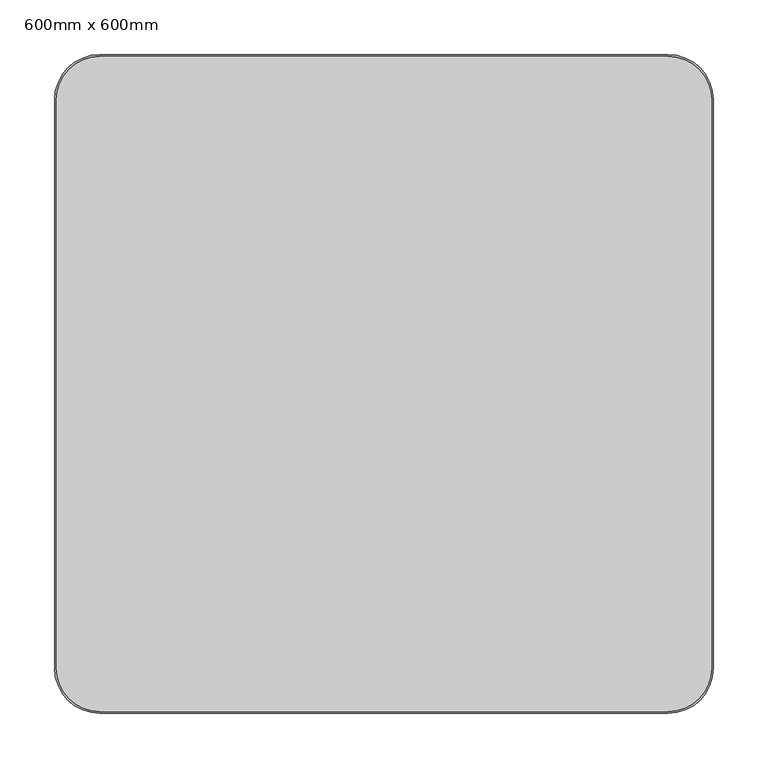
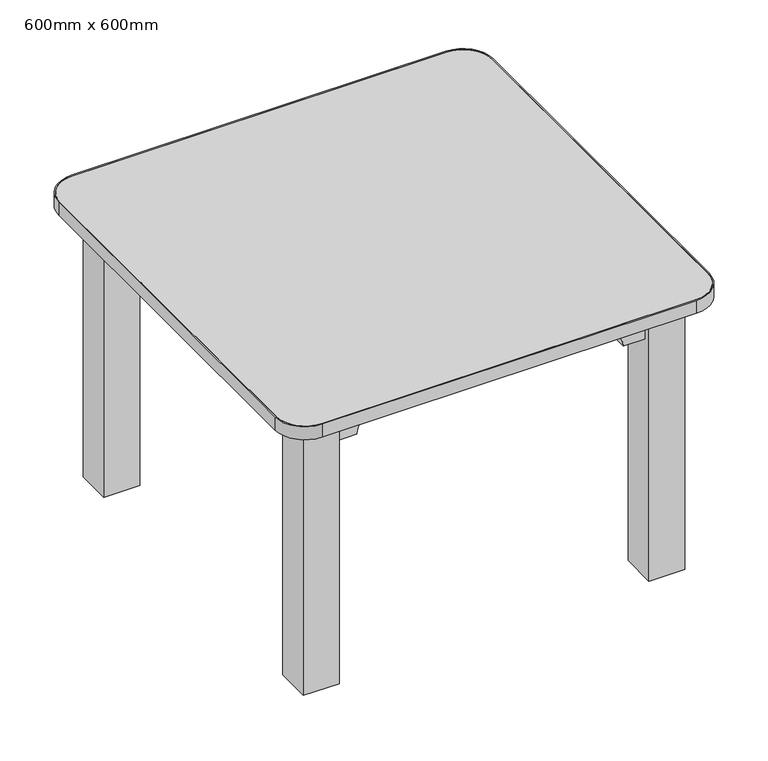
"""IFC4 building model written with IfcOpenShell, lengths in millimetres: furniture geometry, Table rectangulaire - Petit : 600mm x 600mm."""

import ifcopenshell
import ifcopenshell.guid

model = None  # the IFC model being written
_history = None  # IfcOwnerHistory: only IFC2X3 demands one
_inside = {}  # id of a spatial element -> (the spatial element, [elements in it])
_under = {}  # id of a project, library or spatial element -> (it, [spatial elements below it])
_declared = {}  # id of a project -> (the project, [libraries it declares])
_typed = {}  # id of a type object -> (the type object, [elements of that type])
_made_of = {}  # id of a material, layer set ... -> (it, [elements and type objects made of it])


def new_model(schema):
    """Start an empty IFC model of exactly this schema.

    Asked for "IFC4X3", IfcOpenShell would pick the latest addendum, in which some entities
    have other attributes; the version numbers below select the first issue.
    IFC2X3 requires an IfcOwnerHistory on every rooted entity: one is made here for all.
    """
    global model, _history
    if schema == "IFC4X3":
        model = ifcopenshell.file(schema_version=(4, 3, 0, 0))
    else:
        model = ifcopenshell.file(schema=schema)
    _inside.clear()
    _under.clear()
    _declared.clear()
    _typed.clear()
    _made_of.clear()
    _history = None
    if model.schema == "IFC2X3":
        org = make("IfcOrganization", Name="unknown")
        user = make(
            "IfcPersonAndOrganization",
            ThePerson=make("IfcPerson", FamilyName="unknown"),
            TheOrganization=org,
        )
        app = make(
            "IfcApplication",
            ApplicationDeveloper=org,
            Version="unknown",
            ApplicationFullName="unknown",
            ApplicationIdentifier="unknown",
        )
        _history = make(
            "IfcOwnerHistory",
            OwningUser=user,
            OwningApplication=app,
            ChangeAction="ADDED",
            CreationDate=0,
        )
    return model


def make(cls, **values):
    """One entity of the class cls with the attributes given. An attribute that is None is left unset."""
    return model.create_entity(
        cls, **{name: value for name, value in values.items() if value is not None}
    )


def rooted(cls, **values):
    """An entity with a GlobalId (a new one), such as an element, a storey or a relation."""
    return make(cls, GlobalId=ifcopenshell.guid.new(), OwnerHistory=_history, **values)


def si_unit(unit_type, name, prefix=None):
    """IfcSIUnit, for example si_unit("LENGTHUNIT", "METRE", prefix="MILLI")."""
    return make("IfcSIUnit", UnitType=unit_type, Prefix=prefix, Name=name)


def assignment(units):
    """IfcUnitAssignment: the units of a project."""
    return None if units is None else make("IfcUnitAssignment", Units=units)


def point(xyz):
    """IfcCartesianPoint."""
    return None if xyz is None else make("IfcCartesianPoint", Coordinates=xyz)


def direction(xyz):
    """IfcDirection."""
    return None if xyz is None else make("IfcDirection", DirectionRatios=xyz)


def frame(location, z_axis=None, x_axis=None):
    """IfcAxis2Placement3D, a coordinate frame: its origin and axes. An axis left out is left unset."""
    return make(
        "IfcAxis2Placement3D",
        Location=point(location),
        Axis=direction(z_axis),
        RefDirection=direction(x_axis),
    )


def frame_2d(location, x_axis=None):
    """IfcAxis2Placement2D, a coordinate frame in the plane: its origin and x axis."""
    return make(
        "IfcAxis2Placement2D", Location=point(location), RefDirection=direction(x_axis)
    )


def origin():
    """The frame at (0, 0, 0) with its axes left unset."""
    return frame((0.0, 0.0, 0.0))


def origin_with_axes():
    """The frame at (0, 0, 0) with the z axis (0, 0, 1) and the x axis (1, 0, 0) written out."""
    return frame((0.0, 0.0, 0.0), z_axis=(0.0, 0.0, 1.0), x_axis=(1.0, 0.0, 0.0))


def place(relative_to, where):
    """IfcLocalPlacement: puts the frame where relative to a parent placement (None: the world)."""
    return make(
        "IfcLocalPlacement", PlacementRelTo=relative_to, RelativePlacement=where
    )


def context(
    kind, dimensions, precision=None, world=None, true_north=None, identifier=None
):
    """IfcGeometricRepresentationContext, for example the 3D "Model" context."""
    return make(
        "IfcGeometricRepresentationContext",
        ContextIdentifier=identifier,
        ContextType=kind,
        CoordinateSpaceDimension=dimensions,
        Precision=precision,
        WorldCoordinateSystem=world,
        TrueNorth=true_north,
    )


def project(units=None, contexts=None):
    """IfcProject with its units and contexts."""
    return rooted(
        "IfcProject",
        Name="project",
        RepresentationContexts=contexts,
        UnitsInContext=assignment(units),
    )


def spatial(cls, under=None, at=None, **own):
    """A site, building, storey or space (cls), placed at a placement, below another one or the project."""
    s = rooted(cls, ObjectPlacement=at, **own)
    if under is not None:
        _under.setdefault(under.id(), (under, []))[1].append(s)
    return s


def polyline(points):
    """IfcPolyline through the points."""
    return make("IfcPolyline", Points=[point(p) for p in points])


def circle_curve(where, radius):
    """IfcCircle in the frame where."""
    return make("IfcCircle", Position=where, Radius=radius)


def trimmed(basis, trim1, trim2, sense, master):
    """IfcTrimmedCurve: the piece of a basis curve between two trims."""
    return make(
        "IfcTrimmedCurve",
        BasisCurve=basis,
        Trim1=trim1,
        Trim2=trim2,
        SenseAgreement=sense,
        MasterRepresentation=master,
    )


def segment(curve, same_sense, transition):
    """IfcCompositeCurveSegment."""
    return make(
        "IfcCompositeCurveSegment",
        Transition=transition,
        SameSense=same_sense,
        ParentCurve=curve,
    )


def composite_curve(segments, self_intersect=None):
    """IfcCompositeCurve: segments joined end to end."""
    return make("IfcCompositeCurve", Segments=segments, SelfIntersect=self_intersect)


def outline(outer, holes=None, kind="AREA"):
    """IfcArbitraryClosedProfileDef: a profile drawn as a closed curve; with holes, ...WithVoids."""
    if holes is None:
        return make("IfcArbitraryClosedProfileDef", ProfileType=kind, OuterCurve=outer)
    return make(
        "IfcArbitraryProfileDefWithVoids",
        ProfileType=kind,
        OuterCurve=outer,
        InnerCurves=holes,
    )


def extrude(swept, where, along, depth):
    """IfcExtrudedAreaSolid: the profile swept, set in the frame where, extruded along a direction by depth."""
    return make(
        "IfcExtrudedAreaSolid",
        SweptArea=swept,
        Position=where,
        ExtrudedDirection=direction(along),
        Depth=depth,
    )


def shape(context_of_items, identifier, shape_type, items):
    """IfcShapeRepresentation: the items that make up one representation, for example the "Body"."""
    return make(
        "IfcShapeRepresentation",
        ContextOfItems=context_of_items,
        RepresentationIdentifier=identifier,
        RepresentationType=shape_type,
        Items=items,
    )


def source(mapping_origin, context_of_items, identifier, shape_type, items):
    """IfcRepresentationMap: a shape defined once, which mapped items show again and again."""
    return make(
        "IfcRepresentationMap",
        MappingOrigin=mapping_origin,
        MappedRepresentation=shape(context_of_items, identifier, shape_type, items),
    )


def transform(
    local_origin,
    x_axis=None,
    y_axis=None,
    z_axis=None,
    scale=None,
    scale2=None,
    scale3=None,
    uniform=True,
):
    """IfcCartesianTransformationOperator3D, or its non-uniform kind. x_axis, y_axis, z_axis: its Axis1, 2, 3."""
    if uniform:
        return make(
            "IfcCartesianTransformationOperator3D",
            Axis1=direction(x_axis),
            Axis2=direction(y_axis),
            LocalOrigin=point(local_origin),
            Scale=scale,
            Axis3=direction(z_axis),
        )
    return make(
        "IfcCartesianTransformationOperator3DnonUniform",
        Axis1=direction(x_axis),
        Axis2=direction(y_axis),
        LocalOrigin=point(local_origin),
        Scale=scale,
        Axis3=direction(z_axis),
        Scale2=scale2,
        Scale3=scale3,
    )


def mapped(mapping_source, mapping_target):
    """IfcMappedItem: shows the shape of a source again, moved by a transform."""
    return make(
        "IfcMappedItem", MappingSource=mapping_source, MappingTarget=mapping_target
    )


def made_of(thing, what):
    """Note that an element or type object is made of a material, layer set ...; save() writes the relation."""
    if what is not None:
        _made_of.setdefault(what.id(), (what, []))[1].append(thing)
    return thing


def element(
    cls,
    number,
    at=None,
    inside=None,
    cuts=None,
    type_object=None,
    material=None,
    context=None,
    identifier="Body",
    shape_type=None,
    held_by="IfcProductDefinitionShape",
    body=None,
    shapes=None,
    **own,
):
    """One element of the class cls, such as IfcWall. Its Tag is "e" and its number.

    at: its placement. inside: the storey or other place that contains it. cuts: it is an
    opening in that element (IfcRelVoidsElement). A single representation is given by context,
    identifier, shape_type and body (its items); several are given by shapes. held_by: the class
    of the entity that holds the representations. save() writes the other relations.
    """
    e = rooted(cls, Tag="e%d" % number, ObjectPlacement=at, **own)
    if body is not None:
        shapes = [shape(context, identifier, shape_type, body)]
    if shapes is not None:
        e.Representation = make(held_by, Representations=shapes)
    if inside is not None:
        _inside.setdefault(inside.id(), (inside, []))[1].append(e)
    if cuts is not None:
        rooted(
            "IfcRelVoidsElement", RelatingBuildingElement=cuts, RelatedOpeningElement=e
        )
    if type_object is not None:
        _typed.setdefault(type_object.id(), (type_object, []))[1].append(e)
    return made_of(e, material)


def aggregate(whole, parts):
    """IfcRelAggregates: a whole, such as a stair, and the parts it consists of."""
    return rooted("IfcRelAggregates", RelatingObject=whole, RelatedObjects=parts)


def save(model, path):
    """Write the relations noted so far, then the file.

    IfcRelAggregates (storeys below a building ...), IfcRelContainedInSpatialStructure (elements
    in a storey), IfcRelDefinesByType, IfcRelAssociatesMaterial and IfcRelDeclares: one each for
    every whole, place, type object, material and project.
    """
    for whole, parts in _under.values():
        aggregate(whole, parts)
    for where, things in _inside.values():
        rooted(
            "IfcRelContainedInSpatialStructure",
            RelatedElements=things,
            RelatingStructure=where,
        )
    for kind, things in _typed.values():
        rooted("IfcRelDefinesByType", RelatedObjects=things, RelatingType=kind)
    for what, things in _made_of.values():
        rooted("IfcRelAssociatesMaterial", RelatedObjects=things, RelatingMaterial=what)
    for by, libraries in _declared.values():
        rooted("IfcRelDeclares", RelatingContext=by, RelatedDefinitions=libraries)
    model.write(path)


def furniture_600mm_x_600mm_a769e95e(model_context):
    return source(origin(), model_context, "Body", "SweptSolid", [
        extrude(outline(composite_curve([segment(polyline([(289.1058232, -331.5), (-230.8941768, -331.5)]), True, "CONTINUOUS"), segment(trimmed(circle_curve(frame_2d((-230.8941768, -290.0)), 41.5), [point((-230.8941768, -331.5))], [point((-272.3941768, -290.0))], False, "CARTESIAN"), True, "CONTINUOUS"), segment(polyline([(-272.3941768, -290.0), (-272.3941768, 230.0)]), True, "CONTINUOUS"), segment(trimmed(circle_curve(frame_2d((-230.8941768, 230.0)), 41.5), [point((-272.3941768, 230.0))], [point((-230.8941768, 271.5))], False, "CARTESIAN"), True, "CONTINUOUS"), segment(polyline([(-230.8941768, 271.5), (289.1058232, 271.5)]), True, "CONTINUOUS"), segment(trimmed(circle_curve(frame_2d((289.1058232, 230.0)), 41.5), [point((289.1058232, 271.5))], [point((330.6058232, 230.0))], False, "CARTESIAN"), True, "CONTINUOUS"), segment(polyline([(330.6058232, 230.0), (330.6058232, -290.0)]), True, "CONTINUOUS"), segment(trimmed(circle_curve(frame_2d((289.1058232, -290.0)), 41.5), [point((330.6058232, -290.0))], [point((289.1058232, -331.5))], False, "CARTESIAN"), True, "CONTINUOUS")], self_intersect=False), holes=[composite_curve([segment(polyline([(-270.8941768, 230.0), (-270.8941768, -290.0)]), True, "CONTINUOUS"), segment(trimmed(circle_curve(frame_2d((-230.8941768, -290.0)), 40.0), [point((-270.8941768, -290.0))], [point((-230.8941768, -330.0))], True, "CARTESIAN"), True, "CONTINUOUS"), segment(polyline([(-230.8941768, -330.0), (289.1058232, -330.0)]), True, "CONTINUOUS"), segment(trimmed(circle_curve(frame_2d((289.1058232, -290.0)), 40.0), [point((289.1058232, -330.0))], [point((329.1058232, -290.0))], True, "CARTESIAN"), True, "CONTINUOUS"), segment(polyline([(329.1058232, -290.0), (329.1058232, 230.0)]), True, "CONTINUOUS"), segment(trimmed(circle_curve(frame_2d((289.1058232, 230.0)), 40.0), [point((329.1058232, 230.0))], [point((289.1058232, 270.0))], True, "CARTESIAN"), True, "CONTINUOUS"), segment(polyline([(289.1058232, 270.0), (-230.8941768, 270.0)]), True, "CONTINUOUS"), segment(trimmed(circle_curve(frame_2d((-230.8941768, 230.0)), 40.0), [point((-230.8941768, 270.0))], [point((-270.8941768, 230.0))], True, "CARTESIAN"), True, "CONTINUOUS")], self_intersect=False)]), frame((0.0, 0.0, 400.0), z_axis=(0.0, 0.0, 1.0), x_axis=(1.0, 0.0, 0.0)), (0.0, 0.0, 1.0), 19.0),
        extrude(outline(composite_curve([segment(polyline([(400.0, -185.8941768), (350.0, -185.8941768), (350.0, -155.8941768)]), True, "CONTINUOUS"), segment(trimmed(circle_curve(frame_2d((350.0, -130.8941768)), 25.0), [point((350.0, -155.8941768))], [point((375.0, -130.8941768))], True, "CARTESIAN"), True, "CONTINUOUS"), segment(polyline([(375.0, -130.8941768), (375.0, 189.1058232)]), True, "CONTINUOUS"), segment(trimmed(circle_curve(frame_2d((350.0, 189.1058232)), 25.0), [point((375.0, 189.1058232))], [point((350.0, 214.1058232))], True, "CARTESIAN"), True, "CONTINUOUS"), segment(polyline([(350.0, 214.1058232), (350.0, 244.1058232), (400.0, 244.1058232), (400.0, -185.8941768)]), True, "CONTINUOUS")], self_intersect=False)), frame((0.0, 195.0, 0.0), z_axis=(0.0, 1.0, 0.0), x_axis=(0.0, 0.0, 1.0)), (0.0, 0.0, 1.0), 30.0),
        extrude(outline(composite_curve([segment(polyline([(400.0, 244.1058232), (400.0, -185.8941768), (350.0, -185.8941768), (350.0, -155.8941768)]), True, "CONTINUOUS"), segment(trimmed(circle_curve(frame_2d((350.0, -130.8941768)), 25.0), [point((350.0, -155.8941768))], [point((375.0, -130.8941768))], True, "CARTESIAN"), True, "CONTINUOUS"), segment(polyline([(375.0, -130.8941768), (375.0, 189.1058232)]), True, "CONTINUOUS"), segment(trimmed(circle_curve(frame_2d((350.0, 189.1058232)), 25.0), [point((375.0, 189.1058232))], [point((350.0, 214.1058232))], True, "CARTESIAN"), True, "CONTINUOUS"), segment(polyline([(350.0, 214.1058232), (350.0, 244.1058232), (400.0, 244.1058232)]), True, "CONTINUOUS")], self_intersect=False)), frame((0.0, -285.0, 0.0), z_axis=(0.0, 1.0, 0.0), x_axis=(0.0, 0.0, 1.0)), (0.0, 0.0, 1.0), 30.0),
        extrude(outline(composite_curve([segment(polyline([(-245.0, 400.0), (185.0, 400.0), (185.0, 350.0), (155.0, 350.0)]), True, "CONTINUOUS"), segment(trimmed(circle_curve(frame_2d((130.0, 350.0)), 25.0), [point((155.0, 350.0))], [point((130.0, 375.0))], True, "CARTESIAN"), True, "CONTINUOUS"), segment(polyline([(130.0, 375.0), (-190.0, 375.0)]), True, "CONTINUOUS"), segment(trimmed(circle_curve(frame_2d((-190.0, 350.0)), 25.0), [point((-190.0, 375.0))], [point((-215.0, 350.0))], True, "CARTESIAN"), True, "CONTINUOUS"), segment(polyline([(-215.0, 350.0), (-245.0, 350.0), (-245.0, 400.0)]), True, "CONTINUOUS")], self_intersect=False)), frame((-225.8941768, 0.0, 0.0), z_axis=(1.0, 0.0, 0.0), x_axis=(0.0, 1.0, 0.0)), (0.0, 0.0, 1.0), 30.0),
        extrude(outline(composite_curve([segment(polyline([(-215.0, 350.0), (-245.0, 350.0), (-245.0, 400.0), (185.0, 400.0), (185.0, 350.0), (155.0, 350.0)]), True, "CONTINUOUS"), segment(trimmed(circle_curve(frame_2d((130.0, 350.0)), 25.0), [point((155.0, 350.0))], [point((130.0, 375.0))], True, "CARTESIAN"), True, "CONTINUOUS"), segment(polyline([(130.0, 375.0), (-190.0, 375.0)]), True, "CONTINUOUS"), segment(trimmed(circle_curve(frame_2d((-190.0, 350.0)), 25.0), [point((-190.0, 375.0))], [point((-215.0, 350.0))], True, "CARTESIAN"), True, "CONTINUOUS")], self_intersect=False)), frame((254.1058232, 0.0, 0.0), z_axis=(1.0, 0.0, 0.0), x_axis=(0.0, 1.0, 0.0)), (0.0, 0.0, 1.0), 30.0),
        extrude(outline(polyline([(-185.8941768, -295.0), (-235.8941768, -295.0), (-235.8941768, -245.0), (-185.8941768, -245.0), (-185.8941768, -295.0)])), origin_with_axes(), (0.0, 0.0, 1.0), 400.0),
        extrude(outline(polyline([(-185.8941768, 185.0), (-235.8941768, 185.0), (-235.8941768, 235.0), (-185.8941768, 235.0), (-185.8941768, 185.0)])), origin_with_axes(), (0.0, 0.0, 1.0), 400.0),
        extrude(outline(polyline([(294.1058232, 185.0), (244.1058232, 185.0), (244.1058232, 235.0), (294.1058232, 235.0), (294.1058232, 185.0)])), origin_with_axes(), (0.0, 0.0, 1.0), 400.0),
        extrude(outline(polyline([(294.1058232, -295.0), (244.1058232, -295.0), (244.1058232, -245.0), (294.1058232, -245.0), (294.1058232, -295.0)])), origin_with_axes(), (0.0, 0.0, 1.0), 400.0),
        extrude(outline(composite_curve([segment(trimmed(circle_curve(frame_2d((289.1058232, 230.0)), 40.0), [point((289.1058232, 270.0))], [point((329.1058232, 230.0))], False, "CARTESIAN"), True, "CONTINUOUS"), segment(polyline([(329.1058232, 230.0), (329.1058232, -290.0)]), True, "CONTINUOUS"), segment(trimmed(circle_curve(frame_2d((289.1058232, -290.0)), 40.0), [point((329.1058232, -290.0))], [point((289.1058232, -330.0))], False, "CARTESIAN"), True, "CONTINUOUS"), segment(polyline([(289.1058232, -330.0), (-230.8941768, -330.0)]), True, "CONTINUOUS"), segment(trimmed(circle_curve(frame_2d((-230.8941768, -290.0)), 40.0), [point((-230.8941768, -330.0))], [point((-270.8941768, -290.0))], False, "CARTESIAN"), True, "CONTINUOUS"), segment(polyline([(-270.8941768, -290.0), (-270.8941768, 230.0)]), True, "CONTINUOUS"), segment(trimmed(circle_curve(frame_2d((-230.8941768, 230.0)), 40.0), [point((-270.8941768, 230.0))], [point((-230.8941768, 270.0))], False, "CARTESIAN"), True, "CONTINUOUS"), segment(polyline([(-230.8941768, 270.0), (289.1058232, 270.0)]), True, "CONTINUOUS")], self_intersect=False)), frame((0.0, 0.0, 400.0), z_axis=(0.0, 0.0, 1.0), x_axis=(1.0, 0.0, 0.0)), (0.0, 0.0, 1.0), 19.0),
    ])


if __name__ == "__main__":
    model = new_model("IFC4")
    model_context = context("Model", 3, world=origin())
    ifc_project = project(units=[si_unit("LENGTHUNIT", "METRE", prefix="MILLI")], contexts=[model_context])
    site = spatial("IfcSite", under=ifc_project)
    building = spatial("IfcBuilding", under=site)
    placement = place(None, origin())
    furniture_600mm_x_600mm_shape = furniture_600mm_x_600mm_a769e95e(model_context)
    element("IfcFurniture", 1, ObjectType="Table rectangulaire - Petit : 600mm x 600mm", at=placement, inside=building, context=model_context, shape_type="MappedRepresentation", body=[
        mapped(furniture_600mm_x_600mm_shape, transform((0.0, 0.0, 0.0), x_axis=(1.0, 0.0, 0.0), y_axis=(0.0, 1.0, 0.0), z_axis=(0.0, 0.0, 1.0))),
    ])
    save(model, "model.ifc")
